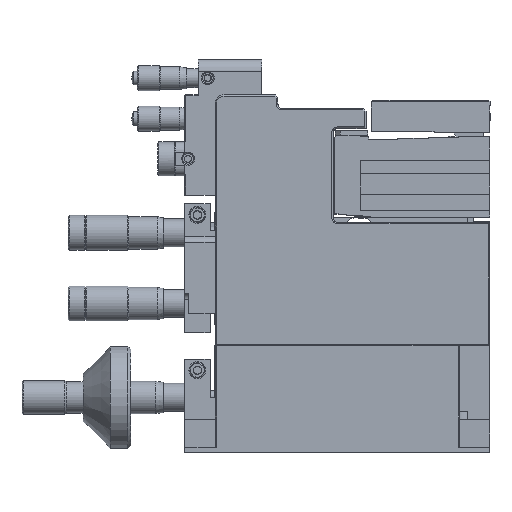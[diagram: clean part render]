
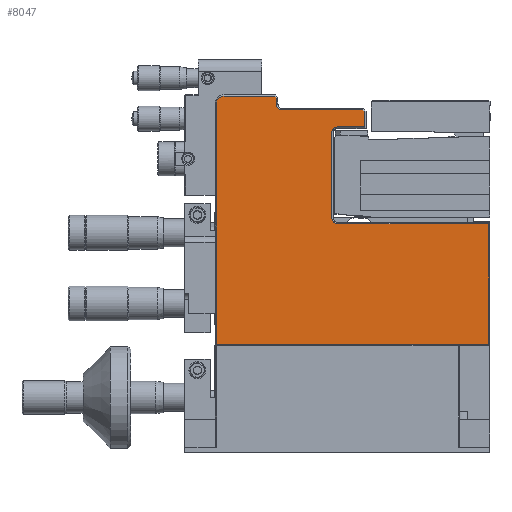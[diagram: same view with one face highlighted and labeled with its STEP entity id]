
A CAD part, top view. The second image highlights one B-rep face of the part: STEP entity #8047.
In plain terms, the highlighted planar face has unit normal (0, 0, 1).
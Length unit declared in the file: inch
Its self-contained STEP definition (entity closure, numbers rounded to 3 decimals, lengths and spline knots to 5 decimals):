
#2931=EDGE_CURVE('P5A-LM-MMMM-HN-SI[2]',#9386,#9387,#9388,.T.);
#3533=EDGE_CURVE('P5A-LM-MMMM-HN-SI[2]',#10366,#10367,#10368,.T.);
#3567=EDGE_CURVE('P5A-LM-MMMM-HN-SI[2]',#9386,#10418,#10419,.T.);
#3682=EDGE_CURVE('P5A-LM-MMMM-HN-SI[2]',#10599,#10600,#10601,.T.);
#4118=EDGE_CURVE('P5A-LM-MMMM-HN-SI[2]',#10600,#10041,#11276,.T.);
#5285=EDGE_CURVE('P5A-LM-MMMM-HN-SI[2]',#12965,#12966,#12967,.T.);
#5873=EDGE_CURVE('P5A-LM-MMMM-HN-SI[2]',#10367,#12965,#13753,.T.);
#6379=EDGE_CURVE('P5A-LM-MMMM-HN-SI[2]',#14399,#9387,#14400,.T.);
#6507=EDGE_CURVE('P5A-LM-MMMM-HN-SI[2]',#13973,#9938,#14557,.T.);
#6686=EDGE_CURVE('P5A-LM-MMMM-HN-SI[2]',#10041,#10366,#14785,.T.);
#7397=EDGE_CURVE('P5A-LM-MMMM-HN-SI[2]',#13244,#13973,#15683,.F.);
#7522=EDGE_CURVE('P5A-LM-MMMM-HN-SI[2]',#9938,#11221,#15837,.T.);
#8047=ADVANCED_FACE('P5A-LM-MMMM-HN-SI[2]',(#16481),#16482,.T.);
#8433=EDGE_CURVE('P5A-LM-MMMM-HN-SI[2]',#11221,#16951,#16952,.T.);
#8523=EDGE_CURVE('P5A-LM-MMMM-HN-SI[2]',#16951,#10599,#17058,.T.);
#8552=EDGE_CURVE('P5A-LM-MMMM-HN-SI[2]',#10418,#13244,#17091,.F.);
#8914=EDGE_CURVE('P5A-LM-MMMM-HN-SI[2]',#12966,#14399,#17557,.T.);
#9386=VERTEX_POINT('',#18162);
#9387=VERTEX_POINT('',#18163);
#9388=LINE('',#18164,#18165);
#9938=VERTEX_POINT('',#18938);
#10041=VERTEX_POINT('',#19096);
#10366=VERTEX_POINT('',#19577);
#10367=VERTEX_POINT('',#19578);
#10368=CIRCLE('',#19579,0.085);
#10418=VERTEX_POINT('',#19649);
#10419=LINE('',#19650,#19651);
#10599=VERTEX_POINT('',#19917);
#10600=VERTEX_POINT('',#19918);
#10601=LINE('',#19919,#19920);
#11221=VERTEX_POINT('',#20809);
#11276=LINE('',#20899,#20900);
#12965=VERTEX_POINT('',#23409);
#12966=VERTEX_POINT('',#23410);
#12967=CIRCLE('',#23411,0.085);
#13244=VERTEX_POINT('',#23861);
#13753=LINE('',#24631,#24632);
#13973=VERTEX_POINT('',#24983);
#14399=VERTEX_POINT('',#25702);
#14400=LINE('',#25703,#25704);
#14557=LINE('',#25959,#25960);
#14785=LINE('',#26306,#26307);
#15683=LINE('',#27717,#27718);
#15837=LINE('',#27943,#27944);
#16481=FACE_OUTER_BOUND('',#28996,.T.);
#16482=PLANE('',#28997);
#16951=VERTEX_POINT('',#29748);
#16952=CIRCLE('',#29749,0.085);
#17058=LINE('',#29926,#29927);
#17091=CIRCLE('',#29979,0.11);
#17557=LINE('',#30702,#30703);
#18162=CARTESIAN_POINT('',(-5.03,-4.1,0.875));
#18163=CARTESIAN_POINT('',(-1.02,-4.1,0.875));
#18164=CARTESIAN_POINT('',(-3.025,-4.1,0.875));
#18165=VECTOR('',#31283,1.0);
#18938=CARTESIAN_POINT('',(-4.145,-0.46828,0.875));
#19096=CARTESIAN_POINT('',(-2.845,-0.895,0.875));
#19577=CARTESIAN_POINT('',(-3.245,-0.895,0.875));
#19578=CARTESIAN_POINT('',(-3.33,-0.98,0.875));
#19579=AXIS2_PLACEMENT_3D('',#32180,#32181,#32182);
#19649=CARTESIAN_POINT('',(-5.03,-0.55,0.875));
#19650=CARTESIAN_POINT('',(-5.03,-1.73232,0.875));
#19651=VECTOR('',#32239,1.0);
#19917=CARTESIAN_POINT('',(-2.87328,-0.645,0.875));
#19918=CARTESIAN_POINT('',(-2.845,-0.67328,0.875));
#19919=CARTESIAN_POINT('',(-2.31539,-1.20289,0.875));
#19920=VECTOR('',#32434,1.0);
#20809=CARTESIAN_POINT('',(-4.145,-0.56,0.875));
#20899=CARTESIAN_POINT('',(-2.845,-1.875,0.875));
#20900=VECTOR('',#33157,1.0);
#23409=CARTESIAN_POINT('',(-3.33,-2.235,0.875));
#23410=CARTESIAN_POINT('',(-3.245,-2.32,0.875));
#23411=AXIS2_PLACEMENT_3D('',#35203,#35204,#35205);
#23861=CARTESIAN_POINT('',(-4.92,-0.44,0.875));
#24631=CARTESIAN_POINT('',(-3.33,-2.29125,0.875));
#24632=VECTOR('',#36062,1.0);
#24983=CARTESIAN_POINT('',(-4.17328,-0.44,0.875));
#25702=CARTESIAN_POINT('',(-1.02,-2.32,0.875));
#25703=CARTESIAN_POINT('',(-1.02,-3.485,0.875));
#25704=VECTOR('',#36832,1.0);
#25959=CARTESIAN_POINT('',(-3.23914,-1.37414,0.875));
#25960=VECTOR('',#36993,1.0);
#26306=CARTESIAN_POINT('',(-3.02375,-0.895,0.875));
#26307=VECTOR('',#37276,1.0);
#27717=CARTESIAN_POINT('',(-3.025,-0.44,0.875));
#27718=VECTOR('',#38423,1.0);
#27943=CARTESIAN_POINT('',(-4.145,-1.74875,0.875));
#27944=VECTOR('',#38641,1.0);
#28996=EDGE_LOOP('',(#39462,#39463,#39464,#39465,#39466,#39467,#39468,#39469,#39470,#39471,#39472,#39473,#39474,#39475,#39476,#39477));
#28997=AXIS2_PLACEMENT_3D('',#39478,#39479,#39480);
#29748=CARTESIAN_POINT('',(-4.06,-0.645,0.875));
#29749=AXIS2_PLACEMENT_3D('',#40068,#40069,#40070);
#29926=CARTESIAN_POINT('',(-3.225,-0.645,0.875));
#29927=VECTOR('',#40187,1.0);
#29979=AXIS2_PLACEMENT_3D('',#40225,#40226,#40227);
#30702=CARTESIAN_POINT('',(-2.07125,-2.32,0.875));
#30703=VECTOR('',#40804,1.0);
#31283=DIRECTION('',(1.0,0.0,0.0));
#32180=CARTESIAN_POINT('',(-3.245,-0.98,0.875));
#32181=DIRECTION('',(0.0,0.0,1.0));
#32182=DIRECTION('',(-0.707,0.707,0.0));
#32239=DIRECTION('',(0.0,1.0,0.0));
#32434=DIRECTION('',(0.707,-0.707,0.0));
#33157=DIRECTION('',(0.0,-1.0,0.0));
#35203=CARTESIAN_POINT('',(-3.245,-2.235,0.875));
#35204=DIRECTION('',(0.0,0.0,1.0));
#35205=DIRECTION('',(-0.707,-0.707,0.0));
#36062=DIRECTION('',(0.0,-1.0,0.0));
#36832=DIRECTION('',(0.0,-1.0,-0.0));
#36993=DIRECTION('',(0.707,-0.707,0.0));
#37276=DIRECTION('',(-1.0,0.0,0.0));
#38423=DIRECTION('',(-1.0,0.0,0.0));
#38641=DIRECTION('',(0.0,-1.0,-0.0));
#39462=ORIENTED_EDGE('',*,*,#7397,.F.);
#39463=ORIENTED_EDGE('',*,*,#8552,.F.);
#39464=ORIENTED_EDGE('',*,*,#3567,.F.);
#39465=ORIENTED_EDGE('',*,*,#2931,.T.);
#39466=ORIENTED_EDGE('',*,*,#6379,.F.);
#39467=ORIENTED_EDGE('',*,*,#8914,.F.);
#39468=ORIENTED_EDGE('',*,*,#5285,.F.);
#39469=ORIENTED_EDGE('',*,*,#5873,.F.);
#39470=ORIENTED_EDGE('',*,*,#3533,.F.);
#39471=ORIENTED_EDGE('',*,*,#6686,.F.);
#39472=ORIENTED_EDGE('',*,*,#4118,.F.);
#39473=ORIENTED_EDGE('',*,*,#3682,.F.);
#39474=ORIENTED_EDGE('',*,*,#8523,.F.);
#39475=ORIENTED_EDGE('',*,*,#8433,.F.);
#39476=ORIENTED_EDGE('',*,*,#7522,.F.);
#39477=ORIENTED_EDGE('',*,*,#6507,.F.);
#39478=CARTESIAN_POINT('',(-3.025,-3.0,0.875));
#39479=DIRECTION('',(0.0,0.0,1.0));
#39480=DIRECTION('',(0.0,-1.0,0.0));
#40068=CARTESIAN_POINT('',(-4.06,-0.56,0.875));
#40069=DIRECTION('',(0.0,0.0,1.0));
#40070=DIRECTION('',(-0.707,-0.707,0.0));
#40187=DIRECTION('',(1.0,0.0,0.0));
#40225=CARTESIAN_POINT('',(-4.92,-0.55,0.875));
#40226=DIRECTION('',(0.0,0.0,1.0));
#40227=DIRECTION('',(-0.707,0.707,0.0));
#40804=DIRECTION('',(1.0,0.0,0.0));
